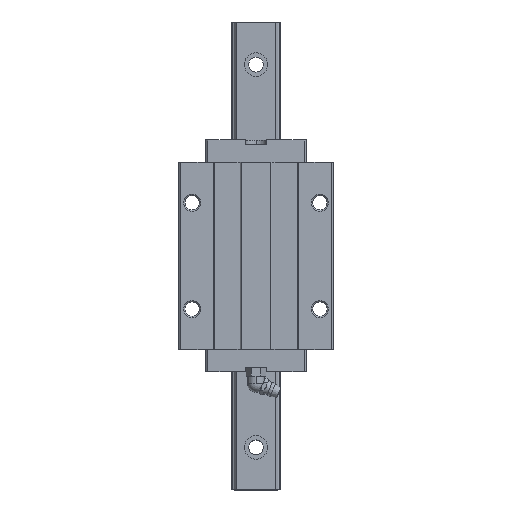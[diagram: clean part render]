
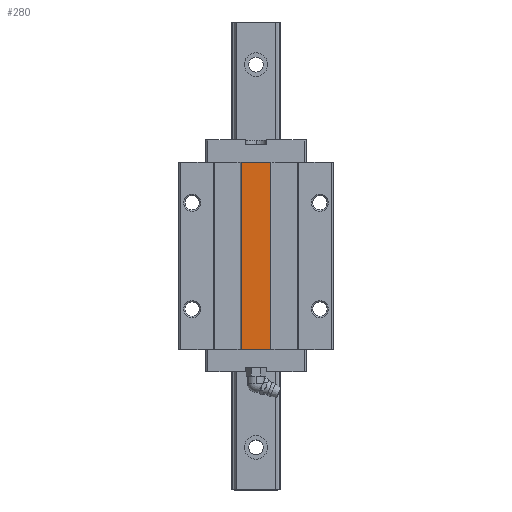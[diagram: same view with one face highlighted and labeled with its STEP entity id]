
A CAD part, top view. The second image highlights one B-rep face of the part: STEP entity #280.
In plain terms, the highlighted planar face has unit normal (0, 0, 1).
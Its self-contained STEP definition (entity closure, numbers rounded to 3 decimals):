
#280=ADVANCED_FACE('',(#644),#645,.T.);
#644=FACE_OUTER_BOUND('',#1152,.T.);
#645=PLANE('',#1153);
#1152=EDGE_LOOP('',(#2390,#2391,#2392,#2393));
#1153=AXIS2_PLACEMENT_3D('',#2394,#2395,#2396);
#2390=ORIENTED_EDGE('',*,*,#3973,.T.);
#2391=ORIENTED_EDGE('',*,*,#3869,.T.);
#2392=ORIENTED_EDGE('',*,*,#3974,.F.);
#2393=ORIENTED_EDGE('',*,*,#3975,.F.);
#2394=CARTESIAN_POINT('',(-7.0,71.0,33.0));
#2395=DIRECTION('',(0.,0.,1.0));
#2396=DIRECTION('',(1.0,0.,0.));
#3869=EDGE_CURVE('',#5022,#5020,#5023,.T.);
#3973=EDGE_CURVE('',#5193,#5022,#5194,.T.);
#3974=EDGE_CURVE('',#5195,#5020,#5196,.T.);
#3975=EDGE_CURVE('',#5193,#5195,#5197,.T.);
#5020=VERTEX_POINT('',#6589);
#5022=VERTEX_POINT('',#6592);
#5023=LINE('',#6593,#6594);
#5193=VERTEX_POINT('',#6840);
#5194=LINE('',#6841,#6842);
#5195=VERTEX_POINT('',#6843);
#5196=LINE('',#6844,#6845);
#5197=LINE('',#6846,#6847);
#6589=CARTESIAN_POINT('',(7.0,-8.5,33.0));
#6592=CARTESIAN_POINT('',(-7.0,-8.5,33.0));
#6593=CARTESIAN_POINT('',(-7.0,-8.5,33.0));
#6594=VECTOR('',#8306,1000.0);
#6840=CARTESIAN_POINT('',(-7.0,79.5,33.0));
#6841=CARTESIAN_POINT('',(-7.0,71.0,33.0));
#6842=VECTOR('',#8464,1000.0);
#6843=CARTESIAN_POINT('',(7.0,79.5,33.0));
#6844=CARTESIAN_POINT('',(7.0,71.0,33.0));
#6845=VECTOR('',#8465,1000.0);
#6846=CARTESIAN_POINT('',(-7.0,79.5,33.0));
#6847=VECTOR('',#8466,1000.0);
#8306=DIRECTION('',(1.0,0.,0.));
#8464=DIRECTION('',(0.,-1.0,0.));
#8465=DIRECTION('',(0.,-1.0,0.));
#8466=DIRECTION('',(1.0,0.,0.));
